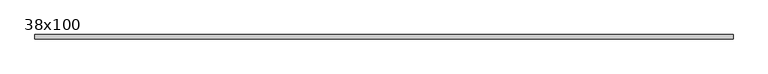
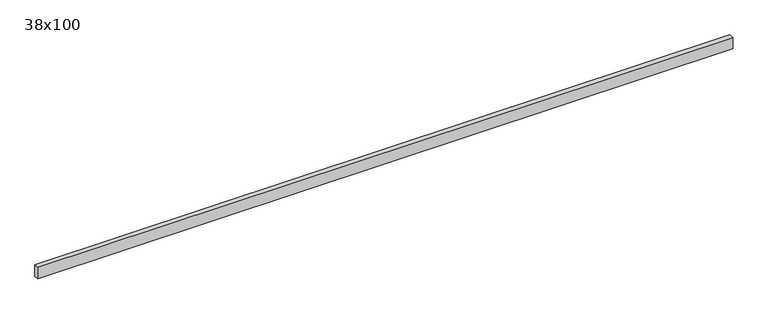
"""IFC4 building model written with IfcOpenShell, lengths in millimetres: beam geometry, Poutre - Bois de construction de dimensions courantes : 38x100."""

from ifc_helpers import new_model, si_unit, frame, origin, place, context, project, spatial, polyline, outline, extrude, source, transform, mapped, element, save


def beam_38x100_0901d127(model_context):
    return source(origin(), model_context, "Body", "SweptSolid", [
        extrude(outline(polyline([(2903.0, 19.05), (2903.0, -19.05), (-2903.0, -19.05), (-2903.0, 19.05), (2903.0, 19.05)])), frame((0.0, 0.0, -50.0), z_axis=(0.0, 0.0, 1.0), x_axis=(1.0, 0.0, 0.0)), (0.0, 0.0, 1.0), 100.0),
    ])


if __name__ == "__main__":
    model = new_model("IFC4")
    model_context = context("Model", 3, world=origin())
    ifc_project = project(units=[si_unit("LENGTHUNIT", "METRE", prefix="MILLI")], contexts=[model_context])
    site = spatial("IfcSite", under=ifc_project)
    building = spatial("IfcBuilding", under=site)
    placement = place(None, origin())
    beam_38x100_shape = beam_38x100_0901d127(model_context)
    element("IfcBeam", 1, ObjectType="Poutre - Bois de construction de dimensions courantes : 38x100", at=placement, inside=building, context=model_context, shape_type="MappedRepresentation", body=[
        mapped(beam_38x100_shape, transform((0.0, 0.0, 0.0), x_axis=(1.0, 0.0, 0.0), y_axis=(0.0, 1.0, 0.0), z_axis=(0.0, 0.0, 1.0))),
    ])
    save(model, "model.ifc")
